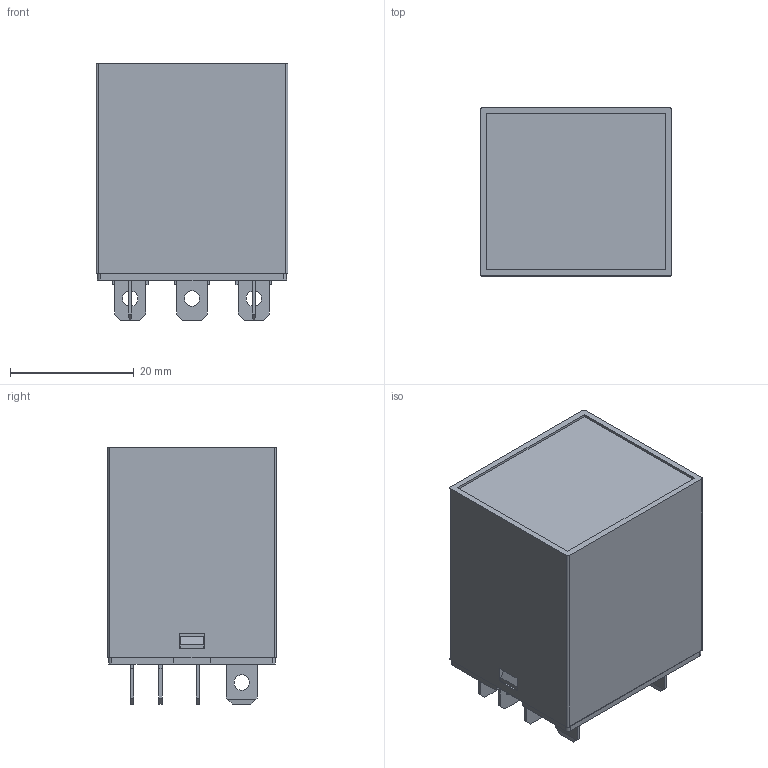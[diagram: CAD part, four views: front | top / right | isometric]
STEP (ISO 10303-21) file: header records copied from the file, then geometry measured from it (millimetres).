
FILE_DESCRIPTION (( 'STEP AP203' ), '1' );
FILE_NAME ('68A3Z都寞.STEP', '2019-03-14T02:45:14', ( 'XiaZaiMa.COM' ), ( 'Win10NeT.COM' ), 'SwSTEP 2.0', 'SolidWorks 2014', '' );
FILE_SCHEMA (( 'CONFIG_CONTROL_DESIGN' ));
Length unit declared in the file: millimetre
Products named in the file (23): 雄銅等え; 濎沺; 價釱; 雄揖萸LY2; 傻繚遠; 竘盄え LY2; 雄銅郪璃; 盄婁; 雄銅諉盄え LY2; 路說殤; 线圈组件; 噙銅えLY2; 俋褲; 玴沺; 噙揖萸 LY2-2H; 蹟佪; 橈埽え-擄眲情臚6020; 價釱郪璃; 68A3Z都寞; 雄銅呿蹋殤; 线圈架; 酗穩隊-肣盄T2 M; 沺郋 AC DC僕蚚
Assembly tree (43 placements, depth 3):
  68A3Z都寞
    價釱郪璃
      價釱
      竘盄え LY2  x2
      雄銅諉盄え LY2  x3
      噙銅えLY2  x6
      噙揖萸 LY2-2H  x6
    线圈组件
      线圈架
      沺郋 AC DC僕蚚  x4
      濎沺
      傻繚遠
      盄婁
    雄銅郪璃
      玴沺
      橈埽え-擄眲情臚6020
      雄銅呿蹋殤
      酗穩隊-肣盄T2 M  x2
      雄銅等え  x3
      雄揖萸LY2  x3
    路說殤
    俋褲
    蹟佪
Bounding box: 31 x 27.2 x 41.5 mm (x, y, z)
Volume: 15328.1 mm3; surface area: 27409.9 mm2
Topology: 40 solids, 40 shells, 1390 faces, 3642 edges, 2404 vertices
Faces by surface type: plane 915, cylinder 362, torus 55, cone 40, sphere 12, bspline 6
Entity records: 30349 total; most frequent: CARTESIAN_POINT 5656, ORIENTED_EDGE 4562, DIRECTION 4416, EDGE_CURVE 2281, LINE 1748, VECTOR 1748, VERTEX_POINT 1504, AXIS2_PLACEMENT_3D 1334
